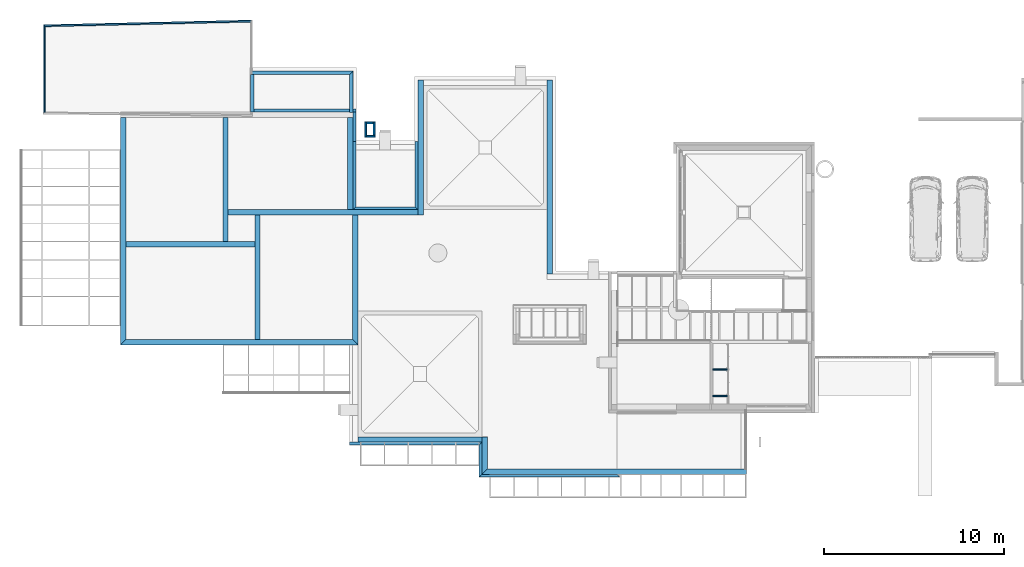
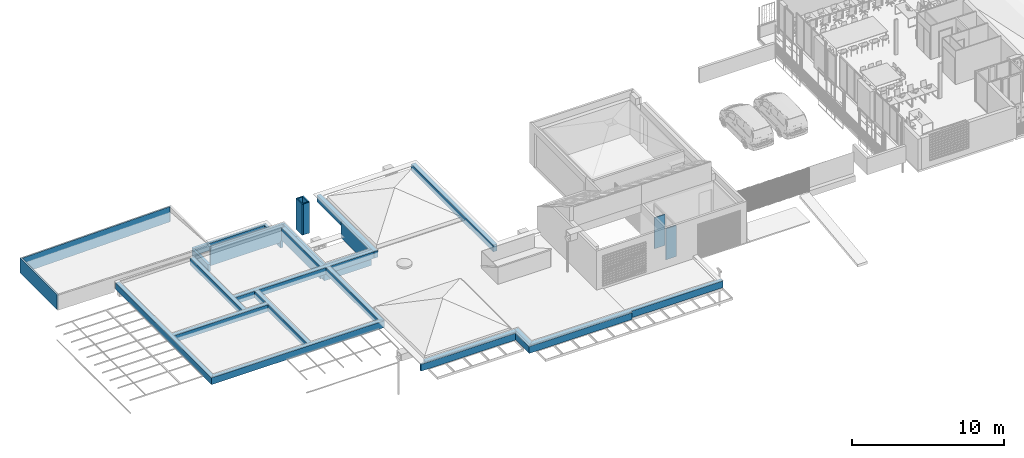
# One storey, part 15 of 51: 32 walls.
"""IFC2X3 building model written with IfcOpenShell, lengths in metres."""

from ifc_helpers import new_model, entity, si_unit, converted_unit, derived_unit, direction, frame, frame_2d, origin, place, context, subcontext, project, spatial, polyline, rectangle, outline, extrude, material, layer, layer_set, layer_usage, type_object, element, save


model = new_model("IFC2X3")

# Units and contexts
model_context = context("Model", 3, precision=1e-05, world=origin(), true_north=direction((6.123031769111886e-17, 1.0)))
body_context = subcontext(model_context, "Body", "Model", "MODEL_VIEW")
ifc_project = project(units=[si_unit("LENGTHUNIT", "METRE"), si_unit("AREAUNIT", "SQUARE_METRE"), si_unit("VOLUMEUNIT", "CUBIC_METRE"), converted_unit("PLANEANGLEUNIT", "DEGREE", entity("IfcRatioMeasure", 0.017453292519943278), si_unit("PLANEANGLEUNIT", "RADIAN"), dimensions=[0, 0, 0, 0, 0, 0, 0]), si_unit("MASSUNIT", "GRAM", prefix="KILO"), derived_unit("MASSDENSITYUNIT", [(si_unit("MASSUNIT", "GRAM", prefix="KILO"), 1), (si_unit("LENGTHUNIT", "METRE"), -3)]), derived_unit("MOMENTOFINERTIAUNIT", [(si_unit("LENGTHUNIT", "METRE"), 4)]), si_unit("TIMEUNIT", "SECOND"), si_unit("FREQUENCYUNIT", "HERTZ"), si_unit("THERMODYNAMICTEMPERATUREUNIT", "DEGREE_CELSIUS"), derived_unit("THERMALTRANSMITTANCEUNIT", [(si_unit("MASSUNIT", "GRAM", prefix="KILO"), 1), (si_unit("THERMODYNAMICTEMPERATUREUNIT", "KELVIN"), -1), (si_unit("TIMEUNIT", "SECOND"), -3)]), derived_unit("THERMALCONDUCTANCEUNIT", [(si_unit("MASSUNIT", "GRAM", prefix="KILO"), 1), (si_unit("LENGTHUNIT", "METRE"), 1), (si_unit("THERMODYNAMICTEMPERATUREUNIT", "KELVIN"), -1), (si_unit("TIMEUNIT", "SECOND"), -3)]), derived_unit("VOLUMETRICFLOWRATEUNIT", [(si_unit("LENGTHUNIT", "METRE"), 3), (si_unit("TIMEUNIT", "SECOND"), -1)]), derived_unit("MASSFLOWRATEUNIT", [(si_unit("MASSUNIT", "GRAM", prefix="KILO"), 1), (si_unit("TIMEUNIT", "SECOND"), -1)]), derived_unit("ROTATIONALFREQUENCYUNIT", [(si_unit("TIMEUNIT", "SECOND"), -1)]), si_unit("ELECTRICCURRENTUNIT", "AMPERE"), si_unit("ELECTRICVOLTAGEUNIT", "VOLT"), si_unit("POWERUNIT", "WATT"), si_unit("FORCEUNIT", "NEWTON", prefix="KILO"), si_unit("ILLUMINANCEUNIT", "LUX"), si_unit("LUMINOUSFLUXUNIT", "LUMEN"), si_unit("LUMINOUSINTENSITYUNIT", "CANDELA"), derived_unit("USERDEFINED", [(si_unit("MASSUNIT", "GRAM", prefix="KILO"), -1), (si_unit("LENGTHUNIT", "METRE"), -2), (si_unit("TIMEUNIT", "SECOND"), 3), (si_unit("LUMINOUSFLUXUNIT", "LUMEN"), 1)]), derived_unit("USERDEFINED", [(si_unit("MASSUNIT", "GRAM", prefix="KILO"), 1), (si_unit("LENGTHUNIT", "METRE"), 3), (si_unit("TIMEUNIT", "SECOND"), -3), (si_unit("ELECTRICCURRENTUNIT", "AMPERE"), -2)]), derived_unit("USERDEFINED", [(si_unit("LENGTHUNIT", "METRE"), 2), (si_unit("TIMEUNIT", "SECOND"), -2)]), derived_unit("SOUNDPOWERUNIT", [(si_unit("MASSUNIT", "GRAM", prefix="KILO"), 1), (si_unit("LENGTHUNIT", "METRE"), 2), (si_unit("TIMEUNIT", "SECOND"), -3)]), derived_unit("SOUNDPRESSUREUNIT", [(si_unit("MASSUNIT", "GRAM", prefix="KILO"), 1), (si_unit("LENGTHUNIT", "METRE"), -1), (si_unit("TIMEUNIT", "SECOND"), -2)]), derived_unit("LINEARVELOCITYUNIT", [(si_unit("LENGTHUNIT", "METRE"), 1), (si_unit("TIMEUNIT", "SECOND"), -1)]), si_unit("PRESSUREUNIT", "PASCAL"), derived_unit("USERDEFINED", [(si_unit("LENGTHUNIT", "METRE"), -2), (si_unit("MASSUNIT", "GRAM", prefix="KILO"), 1), (si_unit("TIMEUNIT", "SECOND"), -2)]), derived_unit("LINEARFORCEUNIT", [(si_unit("MASSUNIT", "GRAM", prefix="KILO"), 1), (si_unit("LENGTHUNIT", "METRE"), 1), (si_unit("TIMEUNIT", "SECOND"), -2), (si_unit("LENGTHUNIT", "METRE"), -1)]), derived_unit("PLANARFORCEUNIT", [(si_unit("MASSUNIT", "GRAM", prefix="KILO"), 1), (si_unit("LENGTHUNIT", "METRE"), 1), (si_unit("TIMEUNIT", "SECOND"), -2), (si_unit("LENGTHUNIT", "METRE"), -2)]), derived_unit("SPECIFICHEATCAPACITYUNIT", [(si_unit("LENGTHUNIT", "METRE"), 2), (si_unit("TIMEUNIT", "SECOND"), -2), (si_unit("THERMODYNAMICTEMPERATUREUNIT", "KELVIN"), -1)]), derived_unit("VAPORPERMEABILITYUNIT", [(si_unit("TIMEUNIT", "SECOND"), 1), (si_unit("LENGTHUNIT", "METRE"), -1)]), derived_unit("DYNAMICVISCOSITYUNIT", [(si_unit("MASSUNIT", "GRAM", prefix="KILO"), 1), (si_unit("LENGTHUNIT", "METRE"), -1), (si_unit("TIMEUNIT", "SECOND"), -1)]), derived_unit("THERMALEXPANSIONCOEFFICIENTUNIT", [(si_unit("THERMODYNAMICTEMPERATUREUNIT", "KELVIN"), -1)])], contexts=[model_context])

# Site, building, storey
site_placement = place(None, origin())
site = spatial("IfcSite", under=ifc_project, at=site_placement, Name="Default", CompositionType="ELEMENT")
building_placement = place(site_placement, origin())
building = spatial("IfcBuilding", under=site, at=building_placement, CompositionType="ELEMENT")
storey_placement = place(building_placement, frame((0.0, 0.0, 3.06)))
storey = spatial("IfcBuildingStorey", under=building, at=storey_placement, Name="ÉTAGE", CompositionType="ELEMENT", Elevation=3.06)

# Walls
ifc_material_1 = material(Name="Appareillage - Pierre taillé")
ifc_layer_1 = layer(ifc_material_1, 0.29999999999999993)
ifc_layer_set_1 = layer_set([ifc_layer_1], Name="Mur de base:Struct. - Pierre 300")
ifc_layer_usage_1 = layer_usage(ifc_layer_set_1, "AXIS2", "NEGATIVE", 0.14999999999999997)
wall_type_1 = type_object("IfcWallType", Name="Mur de base:Struct. - Pierre 300", PredefinedType="STANDARD", material=ifc_layer_set_1)
wall_1_placement = place(storey_placement, frame((124.58075227, 4.317209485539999, -0.260000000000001), z_axis=(0.0, 0.0, 1.0), x_axis=(-1.0, 0.0, 0.0)))
element("IfcWallStandardCase", 1, at=wall_1_placement, inside=storey, type_object=wall_type_1, material=ifc_layer_usage_1, Name="MurExt-004", ObjectType="Mur de base:Struct. - Pierre 300", context=body_context, shape_type="SweptSolid", body=[
    extrude(outline(polyline([(14.40999998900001, -0.15000000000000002), (14.70999998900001, 0.15000000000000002), (0.0, 0.15000000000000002), (0.0, -0.15000000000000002), (7.189999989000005, -0.15000000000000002), (7.4899999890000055, -0.15000000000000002), (14.40999998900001, -0.15000000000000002)])), origin(), (0.0, 0.0, 1.0), 0.5400000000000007),
])
wall_2_placement = place(storey_placement, frame((110.020752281, 4.16720948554, -0.260000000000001), z_axis=(0.0, 0.0, 1.0), x_axis=(0.0, 1.0, 0.0)))
element("IfcWallStandardCase", 2, at=wall_2_placement, inside=storey, type_object=wall_type_1, material=ifc_layer_usage_1, Name="MurExt-005", ObjectType="Mur de base:Struct. - Pierre 300", context=body_context, shape_type="SweptSolid", body=[
    extrude(outline(polyline([(2.0899999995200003, -0.15000000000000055), (2.0899999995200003, 0.15000000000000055), (1.7899999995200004, 0.15000000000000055), (0.0, 0.15000000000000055), (0.30000000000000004, -0.15000000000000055), (2.03999999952, -0.15000000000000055), (2.0899999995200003, -0.15000000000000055)])), origin(), (0.0, 0.0, 1.0), 0.5400000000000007),
])
wall_3_placement = place(storey_placement, frame((109.870752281, 6.107209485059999, -0.260000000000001), z_axis=(0.0, 0.0, 1.0), x_axis=(-1.0, 0.0, 0.0)))
element("IfcWallStandardCase", 3, at=wall_3_placement, inside=storey, type_object=wall_type_1, material=ifc_layer_usage_1, Name="MurExt-006", ObjectType="Mur de base:Struct. - Pierre 300", context=body_context, shape_type="SweptSolid", body=[
    extrude(rectangle(XDim=6.910000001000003, YDim=0.29999999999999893, at=frame_2d((3.4550000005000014, 0.0), x_axis=(-1.0, 0.0))), origin(), (0.0, 0.0, 1.0), 0.5400000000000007),
])
wall_4_placement = place(storey_placement, frame((102.96075228, 11.5272094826, -0.260000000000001), z_axis=(0.0, 0.0, 1.0), x_axis=(-1.0, 0.0, 0.0)))
element("IfcWallStandardCase", 4, at=wall_4_placement, inside=storey, type_object=wall_type_1, material=ifc_layer_usage_1, Name="MurExt-008", ObjectType="Mur de base:Struct. - Pierre 300", context=body_context, shape_type="SweptSolid", body=[
    extrude(outline(polyline([(12.909999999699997, -0.14999999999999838), (13.209999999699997, 0.15000000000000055), (0.0, 0.15000000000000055), (0.3000000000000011, -0.14999999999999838), (5.439999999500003, -0.14999999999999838), (5.739999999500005, -0.14999999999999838), (12.909999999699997, -0.14999999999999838)])), origin(), (0.0, 0.0, 1.0), 0.5400000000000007),
])
wall_5_placement = place(storey_placement, frame((102.81075227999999, 18.5972094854, -0.260000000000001), z_axis=(0.0, 0.0, 1.0), x_axis=(0.0, -1.0, 0.0)))
element("IfcWallStandardCase", 5, at=wall_5_placement, inside=storey, type_object=wall_type_1, material=ifc_layer_usage_1, Name="MurExt-009", ObjectType="Mur de base:Struct. - Pierre 300", context=body_context, shape_type="SweptSolid", body=[
    extrude(outline(polyline([(6.920000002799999, -0.15000000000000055), (7.220000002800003, 0.15000000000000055), (0.0, 0.15000000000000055), (0.0, -0.15000000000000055), (6.920000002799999, -0.15000000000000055)])), origin(), (0.0, 0.0, 1.0), 0.5400000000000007),
])
wall_6_placement = place(storey_placement, frame((89.9007522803, 11.3772094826, -0.260000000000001), z_axis=(0.0, 0.0, 1.0), x_axis=(0.0, 1.0, 0.0)))
element("IfcWallStandardCase", 6, at=wall_6_placement, inside=storey, type_object=wall_type_1, material=ifc_layer_usage_1, Name="MurExt-011", ObjectType="Mur de base:Struct. - Pierre 300", context=body_context, shape_type="SweptSolid", body=[
    extrude(outline(polyline([(12.659999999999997, -0.15000000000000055), (12.659999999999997, 0.15000000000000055), (0.0, 0.15000000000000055), (0.3000000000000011, -0.15000000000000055), (5.44, -0.15000000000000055), (5.740000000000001, -0.15000000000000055), (12.659999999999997, -0.15000000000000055)])), origin(), (0.0, 0.0, 1.0), 0.5400000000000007),
])
wall_7_placement = place(storey_placement, frame((106.45075227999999, 18.5972094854, -0.260000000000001), z_axis=(0.0, 0.0, 1.0), x_axis=(0.0, 1.0, 0.0)))
element("IfcWallStandardCase", 7, at=wall_7_placement, inside=storey, type_object=wall_type_1, material=ifc_layer_usage_1, Name="MurExt-014", ObjectType="Mur de base:Struct. - Pierre 300", context=body_context, shape_type="SweptSolid", body=[
    extrude(rectangle(XDim=7.519999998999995, YDim=0.3000000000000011, at=frame_2d((3.7599999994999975, 0.0), x_axis=(-1.0, 0.0))), origin(), (0.0, 0.0, 1.0), 0.5400000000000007),
])
wall_8_placement = place(storey_placement, frame((113.64075228, 26.117209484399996, -0.260000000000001), z_axis=(0.0, 0.0, 1.0), x_axis=(0.0, -1.0, 0.0)))
element("IfcWallStandardCase", 8, at=wall_8_placement, inside=storey, type_object=wall_type_1, material=ifc_layer_usage_1, Name="MurExt-016", ObjectType="Mur de base:Struct. - Pierre 300", context=body_context, shape_type="SweptSolid", body=[
    extrude(rectangle(XDim=10.810000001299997, YDim=0.3000000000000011, at=frame_2d((5.4050000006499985, 0.0), x_axis=(-1.0, 0.0))), origin(), (0.0, 0.0, 1.0), 0.5400000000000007),
])
wall_9_placement = place(storey_placement, frame((95.74075228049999, 18.7472094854, -0.260000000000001)))
element("IfcWallStandardCase", 9, at=wall_9_placement, inside=storey, type_object=wall_type_1, material=ifc_layer_usage_1, Name="MurExt-015", ObjectType="Mur de base:Struct. - Pierre 300", context=body_context, shape_type="SweptSolid", body=[
    extrude(rectangle(XDim=10.5599999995, YDim=0.3000000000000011, at=frame_2d((5.27999999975, 0.0), x_axis=(-1.0, 0.0))), origin(), (0.0, 0.0, 1.0), 0.5400000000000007),
])
wall_10_placement = place(storey_placement, frame((102.54075227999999, 24.037209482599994, -0.7200000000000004), z_axis=(0.0, 0.0, 1.0), x_axis=(0.0, -1.0, 0.0)))
element("IfcWallStandardCase", 10, at=wall_10_placement, inside=storey, type_object=wall_type_1, material=ifc_layer_usage_1, Name="MurExt-009", ObjectType="Mur de base:Struct. - Pierre 300", context=body_context, shape_type="SweptSolid", body=[
    extrude(rectangle(XDim=5.139999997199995, YDim=0.3000000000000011, at=frame_2d((2.5699999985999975, 0.0), x_axis=(-1.0, 0.0))), origin(), (0.0, 0.0, 1.0), 1.0),
])
wall_11_placement = place(storey_placement, frame((97.37075228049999, 11.677209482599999, -0.260000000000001), z_axis=(0.0, 0.0, 1.0), x_axis=(0.0, 1.0, 0.0)))
element("IfcWallStandardCase", 11, at=wall_11_placement, inside=storey, type_object=wall_type_1, material=ifc_layer_usage_1, Name="MurExt-015", ObjectType="Mur de base:Struct. - Pierre 300", context=body_context, shape_type="SweptSolid", body=[
    extrude(rectangle(XDim=6.920000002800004, YDim=0.3000000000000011, at=frame_2d((3.460000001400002, 0.0), x_axis=(-1.0, 0.0))), origin(), (0.0, 0.0, 1.0), 0.5400000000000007),
])
wall_12_placement = place(storey_placement, frame((95.5907522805, 24.037209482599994, -0.260000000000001), z_axis=(0.0, 0.0, 1.0), x_axis=(0.0, -1.0, 0.0)))
element("IfcWallStandardCase", 12, at=wall_12_placement, inside=storey, type_object=wall_type_1, material=ifc_layer_usage_1, Name="MurExt-015", ObjectType="Mur de base:Struct. - Pierre 300", context=body_context, shape_type="SweptSolid", body=[
    extrude(rectangle(XDim=6.919999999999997, YDim=0.3000000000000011, at=frame_2d((3.4599999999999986, 0.0), x_axis=(-1.0, 0.0))), origin(), (0.0, 0.0, 1.0), 0.5400000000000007),
])
wall_13_placement = place(storey_placement, frame((90.05075228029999, 16.967209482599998, -0.260000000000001)))
element("IfcWallStandardCase", 13, at=wall_13_placement, inside=storey, type_object=wall_type_1, material=ifc_layer_usage_1, Name="MurExt-015", ObjectType="Mur de base:Struct. - Pierre 300", context=body_context, shape_type="SweptSolid", body=[
    extrude(rectangle(XDim=7.170000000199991, YDim=0.3000000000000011, at=frame_2d((3.5850000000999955, 0.0), x_axis=(-1.0, 0.0))), origin(), (0.0, 0.0, 1.0), 0.5400000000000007),
])
ifc_material_2 = material(Name="Enduit - Jaune nature")
ifc_layer_2 = layer(ifc_material_2, 0.02)
ifc_material_3 = material(Name="Isolation - Fibre de verre")
ifc_layer_3 = layer(ifc_material_3, 0.14)
ifc_layer_set_2 = layer_set([ifc_layer_2, ifc_layer_3], Name="Mur de base:ABA ITE 140 + enduit 160")
ifc_layer_usage_2 = layer_usage(ifc_layer_set_2, "AXIS2", "NEGATIVE", 0.08)
wall_type_2 = type_object("IfcWallType", Name="Mur de base:ABA ITE 140 + enduit 160", PredefinedType="STANDARD", material=ifc_layer_set_2)
wall_14_placement = place(storey_placement, frame((102.77075228, 22.68720948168, -1.0), z_axis=(0.0, 0.0, 1.0), x_axis=(0.0, -1.0, 0.0)))
element("IfcWallStandardCase", 14, at=wall_14_placement, inside=storey, type_object=wall_type_2, material=ifc_layer_usage_2, Name="MurExt-008", ObjectType="Mur de base:ABA ITE 140 + enduit 160", context=body_context, shape_type="SweptSolid", body=[
    extrude(outline(polyline([(3.7899999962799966, -0.07999999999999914), (3.6299999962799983, 0.07999999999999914), (0.0, 0.07999999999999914), (0.0, -0.07999999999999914), (3.7899999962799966, -0.07999999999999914)])), origin(), (0.0, 0.0, 1.0), 1.2799999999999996),
])
wall_15_placement = place(storey_placement, frame((109.870752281, 5.877209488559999, -0.260000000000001), z_axis=(0.0, 0.0, 1.0), x_axis=(-1.0, 0.0, 0.0)))
element("IfcWallStandardCase", 15, at=wall_15_placement, inside=storey, type_object=wall_type_2, material=ifc_layer_usage_2, Name="MurExt-016", ObjectType="Mur de base:ABA ITE 140 + enduit 160", context=body_context, shape_type="SweptSolid", body=[
    extrude(outline(polyline([(7.370000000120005, -0.08000000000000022), (7.370000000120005, 0.08000000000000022), (0.15999999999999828, 0.08000000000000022), (0.0, -0.08000000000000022), (7.370000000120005, -0.08000000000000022)])), origin(), (0.0, 0.0, 1.0), 0.5400000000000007),
])
wall_16_placement = place(storey_placement, frame((109.790752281, 4.0072094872, -0.260000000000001), z_axis=(0.0, 0.0, 1.0), x_axis=(0.0, 1.0, 0.0)))
element("IfcWallStandardCase", 16, at=wall_16_placement, inside=storey, type_object=wall_type_2, material=ifc_layer_usage_2, Name="MurExt-015", ObjectType="Mur de base:ABA ITE 140 + enduit 160", context=body_context, shape_type="SweptSolid", body=[
    extrude(outline(polyline([(1.95000000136, -0.07999999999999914), (1.7900000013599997, 0.07999999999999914), (0.0, 0.07999999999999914), (0.16000000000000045, -0.07999999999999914), (1.95000000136, -0.07999999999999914)])), origin(), (0.0, 0.0, 1.0), 0.5400000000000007),
])
wall_17_placement = place(storey_placement, frame((117.550752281, 4.0872094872, -0.260000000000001), z_axis=(0.0, 0.0, 1.0), x_axis=(-1.0, 0.0, 0.0)))
element("IfcWallStandardCase", 17, at=wall_17_placement, inside=storey, type_object=wall_type_2, material=ifc_layer_usage_2, Name="MurExt-014", ObjectType="Mur de base:ABA ITE 140 + enduit 160", context=body_context, shape_type="SweptSolid", body=[
    extrude(outline(polyline([(7.680000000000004, -0.07999999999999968), (7.8400000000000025, 0.08000000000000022), (0.620000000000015, 0.08000000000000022), (0.0, 0.08000000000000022), (0.15999999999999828, -0.07999999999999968), (0.46000000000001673, -0.07999999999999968), (7.680000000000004, -0.07999999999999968)])), origin(), (0.0, 0.0, 1.0), 0.5400000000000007),
])
wall_18_placement = place(storey_placement, frame((97.1707522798, 24.4172094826, -1.1400000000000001)))
element("IfcWallStandardCase", 18, at=wall_18_placement, inside=storey, type_object=wall_type_2, material=ifc_layer_usage_2, Name="MurExt-008", ObjectType="Mur de base:ABA ITE 140 + enduit 160", context=body_context, shape_type="SweptSolid", body=[
    extrude(rectangle(XDim=5.680000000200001, YDim=0.15999999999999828, at=frame_2d((2.8400000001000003, 0.0), x_axis=(-1.0, 0.0))), origin(), (0.0, 0.0, 1.0), 1.42),
])
wall_19_placement = place(storey_placement, frame((102.77075228, 24.337209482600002, -0.9899999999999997), z_axis=(0.0, 0.0, 1.0), x_axis=(0.0, -1.0, 0.0)))
element("IfcWallStandardCase", 19, at=wall_19_placement, inside=storey, type_object=wall_type_2, material=ifc_layer_usage_2, Name="MurExt-008", ObjectType="Mur de base:ABA ITE 140 + enduit 160", context=body_context, shape_type="SweptSolid", body=[
    extrude(rectangle(XDim=1.6500000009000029, YDim=0.15999999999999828, at=frame_2d((0.8250000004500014, 0.0), x_axis=(-1.0, 0.0))), origin(), (0.0, 0.0, 1.0), 1.2699999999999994),
])
wall_20_placement = place(storey_placement, frame((106.22075228, 18.8972094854, -1.0), z_axis=(0.0, 0.0, 1.0), x_axis=(0.0, 1.0, 0.0)))
element("IfcWallStandardCase", 20, at=wall_20_placement, inside=storey, type_object=wall_type_2, material=ifc_layer_usage_2, Name="MurExt-006", ObjectType="Mur de base:ABA ITE 140 + enduit 160", context=body_context, shape_type="SweptSolid", body=[
    extrude(outline(polyline([(3.789999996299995, -0.07999999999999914), (3.789999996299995, 0.07999999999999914), (0.15999999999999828, 0.07999999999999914), (0.0, -0.07999999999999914), (3.789999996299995, -0.07999999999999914)])), origin(), (0.0, 0.0, 1.0), 1.2799999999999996),
])
wall_21_placement = place(storey_placement, frame((102.69075228, 18.977209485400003, -1.0)))
element("IfcWallStandardCase", 21, at=wall_21_placement, inside=storey, type_object=wall_type_2, material=ifc_layer_usage_2, Name="MurExt-006", ObjectType="Mur de base:ABA ITE 140 + enduit 160", context=body_context, shape_type="SweptSolid", body=[
    extrude(outline(polyline([(3.6099999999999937, -0.0800000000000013), (3.4499999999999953, 0.07999999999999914), (0.15999999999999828, 0.07999999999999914), (0.0, -0.0800000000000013), (3.6099999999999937, -0.0800000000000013)])), origin(), (0.0, 0.0, 1.0), 1.2799999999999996),
])
ifc_layer_4 = layer(ifc_material_1, 0.1)
ifc_layer_set_3 = layer_set([ifc_layer_4], Name="Mur de base:Struct. - Pierre 100")
ifc_layer_usage_3 = layer_usage(ifc_layer_set_3, "AXIS2", "NEGATIVE", 0.05)
wall_type_3 = type_object("IfcWallType", Name="Mur de base:Struct. - Pierre 100", PredefinedType="STANDARD", material=ifc_layer_set_3)
wall_22_placement = place(storey_placement, frame((103.39075228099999, 22.9372094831, 0.0), z_axis=(0.0, 0.0, 1.0), x_axis=(0.0, 1.0, 0.0)))
element("IfcWallStandardCase", 22, at=wall_22_placement, inside=storey, type_object=wall_type_3, material=ifc_layer_usage_3, Name="MurExt-021", ObjectType="Mur de base:Struct. - Pierre 100", context=body_context, shape_type="SweptSolid", body=[
    extrude(rectangle(XDim=0.8400000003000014, YDim=0.10000000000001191, at=frame_2d((0.4200000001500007, 0.0), x_axis=(-1.0, 0.0))), origin(), (0.0, 0.0, 1.0), 2.4900000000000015),
])
wall_23_placement = place(storey_placement, frame((103.91075228, 22.9872094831, 0.0), z_axis=(0.0, 0.0, 1.0), x_axis=(-1.0, 0.0, 0.0)))
element("IfcWallStandardCase", 23, at=wall_23_placement, inside=storey, type_object=wall_type_3, material=ifc_layer_usage_3, Name="MurExt-018", ObjectType="Mur de base:Struct. - Pierre 100", context=body_context, shape_type="SweptSolid", body=[
    extrude(rectangle(XDim=0.469999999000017, YDim=0.10000000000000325, at=frame_2d((0.2349999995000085, 0.0), x_axis=(-1.0, 0.0))), origin(), (0.0, 0.0, 1.0), 2.4900000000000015),
])
wall_24_placement = place(storey_placement, frame((103.86075228, 23.7772094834, 0.0), z_axis=(0.0, 0.0, 1.0), x_axis=(0.0, -1.0, 0.0)))
element("IfcWallStandardCase", 24, at=wall_24_placement, inside=storey, type_object=wall_type_3, material=ifc_layer_usage_3, Name="MurExt-019", ObjectType="Mur de base:Struct. - Pierre 100", context=body_context, shape_type="SweptSolid", body=[
    extrude(rectangle(XDim=0.7400000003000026, YDim=0.10000000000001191, at=frame_2d((0.3700000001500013, 0.0), x_axis=(-1.0, 0.0))), origin(), (0.0, 0.0, 1.0), 2.4900000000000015),
])
wall_25_placement = place(storey_placement, frame((103.44075228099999, 23.727209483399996, 0.0)))
element("IfcWallStandardCase", 25, at=wall_25_placement, inside=storey, type_object=wall_type_3, material=ifc_layer_usage_3, Name="MurExt-020", ObjectType="Mur de base:Struct. - Pierre 100", context=body_context, shape_type="SweptSolid", body=[
    extrude(rectangle(XDim=0.3699999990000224, YDim=0.10000000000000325, at=frame_2d((0.1849999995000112, 0.0), x_axis=(-1.0, 0.0))), origin(), (0.0, 0.0, 1.0), 2.4900000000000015),
])
ifc_material_4 = material(Name="Plâtre - Plaques de plâtre")
ifc_layer_5 = layer(ifc_material_4, 0.013)
ifc_layer_6 = layer(ifc_material_3, 0.044)
ifc_layer_7 = layer(ifc_material_4, 0.013)
ifc_layer_set_4 = layer_set([ifc_layer_5, ifc_layer_6, ifc_layer_7], Name="Mur de base:ABA cloison 7cm 70")
ifc_layer_usage_4 = layer_usage(ifc_layer_set_4, "AXIS2", "NEGATIVE", 0.034999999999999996)
wall_type_4 = type_object("IfcWallType", Name="Mur de base:ABA cloison 7cm 70", PredefinedType="STANDARD", material=ifc_layer_set_4)
wall_26_placement = place(storey_placement, frame((122.720752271, 10.002209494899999, 0.0)))
element("IfcWallStandardCase", 26, at=wall_26_placement, inside=storey, type_object=wall_type_4, material=ifc_layer_usage_4, Name="MurExt-025", ObjectType="Mur de base:ABA cloison 7cm 70", context=body_context, shape_type="SweptSolid", body=[
    extrude(rectangle(XDim=0.8000000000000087, YDim=0.07000000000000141, at=frame_2d((0.40000000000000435, 0.0), x_axis=(-1.0, 0.0))), origin(), (0.0, 0.0, 1.0), 2.499999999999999),
])
wall_27_placement = place(storey_placement, frame((122.720752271, 8.53220949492, 0.0)))
element("IfcWallStandardCase", 27, at=wall_27_placement, inside=storey, type_object=wall_type_4, material=ifc_layer_usage_4, Name="MurExt-025", ObjectType="Mur de base:ABA cloison 7cm 70", context=body_context, shape_type="SweptSolid", body=[
    extrude(rectangle(XDim=0.8000000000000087, YDim=0.06999999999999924, at=frame_2d((0.40000000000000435, 0.0), x_axis=(-1.0, 0.0))), origin(), (0.0, 0.0, 1.0), 2.499999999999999),
])
ifc_material_5 = material(Name="Métal - Fer")
ifc_layer_8 = layer(ifc_material_5, 0.1)
ifc_layer_set_5 = layer_set([ifc_layer_8], Name="Mur de base:Métal - Fer 100")
ifc_layer_usage_5 = layer_usage(ifc_layer_set_5, "AXIS2", "NEGATIVE", 0.05)
wall_type_5 = type_object("IfcWallType", Name="Mur de base:Métal - Fer 100", PredefinedType="STANDARD", material=ifc_layer_set_5)
wall_28_placement = place(storey_placement, frame((85.51094004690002, 24.318391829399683, -0.5600000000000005), z_axis=(0.0, 0.0, 1.0), x_axis=(0.0, 1.0, 0.0)))
element("IfcWallStandardCase", 28, at=wall_28_placement, inside=storey, type_object=wall_type_5, material=ifc_layer_usage_5, Name="MurExt-015", ObjectType="Mur de base:Métal - Fer 100", context=body_context, shape_type="SweptSolid", body=[
    extrude(outline(polyline([(4.76609319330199, -0.04999999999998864), (4.863865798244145, 0.050000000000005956), (0.0009828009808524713, 0.050000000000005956), (0.0, -0.04999999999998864), (4.76609319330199, -0.04999999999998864)])), origin(), (0.0, 0.0, 1.0), 1.22),
])
wall_29_placement = place(storey_placement, frame((85.46206614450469, 29.132270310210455, -0.5600000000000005), z_axis=(0.0, 0.0, 1.0), x_axis=(0.9997463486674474, 0.02252195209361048, 0.0)))
element("IfcWallStandardCase", 29, at=wall_29_placement, inside=storey, type_object=wall_type_5, material=ifc_layer_usage_5, Name="MurExt-014", ObjectType="Mur de base:Métal - Fer 100", context=body_context, shape_type="SweptSolid", body=[
    extrude(outline(polyline([(11.520482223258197, -0.04999999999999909), (11.622760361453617, 0.05000000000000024), (0.0, 0.049999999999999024), (0.09777260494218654, -0.049999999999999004), (11.520482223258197, -0.04999999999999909)])), origin(), (0.0, 0.0, 1.0), 1.22),
])
ifc_layer_9 = layer(ifc_material_1, 0.2)
ifc_layer_set_6 = layer_set([ifc_layer_9], Name="Mur de base:Struct. - Pierre 200")
ifc_layer_usage_6 = layer_usage(ifc_layer_set_6, "AXIS2", "NEGATIVE", 0.1)
wall_type_6 = type_object("IfcWallType", Name="Mur de base:Struct. - Pierre 200", PredefinedType="STANDARD", material=ifc_layer_set_6)
wall_30_placement = place(storey_placement, frame((102.59075228, 26.6172094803, -1.5600000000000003), z_axis=(0.0, 0.0, 1.0), x_axis=(0.0, -1.0, 0.0)))
element("IfcWallStandardCase", 30, at=wall_30_placement, inside=storey, type_object=wall_type_6, material=ifc_layer_usage_6, Name="MurExt-016", ObjectType="Mur de base:Struct. - Pierre 200", context=body_context, shape_type="SweptSolid", body=[
    extrude(outline(polyline([(2.2999999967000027, -0.10000000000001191), (2.2999999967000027, 0.0999999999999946), (0.0, 0.0999999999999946), (0.20000000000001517, -0.10000000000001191), (2.2999999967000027, -0.10000000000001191)])), origin(), (0.0, 0.0, 1.0), 0.5699999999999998),
])
wall_31_placement = place(storey_placement, frame((97.05575227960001, 26.517209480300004, -1.5600000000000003)))
element("IfcWallStandardCase", 31, at=wall_31_placement, inside=storey, type_object=wall_type_6, material=ifc_layer_usage_6, Name="MurExt-017", ObjectType="Mur de base:Struct. - Pierre 200", context=body_context, shape_type="SweptSolid", body=[
    extrude(outline(polyline([(5.435000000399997, -0.10000000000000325), (5.6350000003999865, 0.09999999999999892), (0.1350000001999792, 0.09999999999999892), (0.0, 0.09999999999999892), (0.0, -0.10000000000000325), (0.11500000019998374, -0.10000000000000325), (5.435000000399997, -0.10000000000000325)])), origin(), (0.0, 0.0, 1.0), 0.5699999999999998),
])
wall_32_placement = place(storey_placement, frame((97.07075227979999, 24.337209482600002, -1.5600000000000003), z_axis=(0.0, 0.0, 1.0), x_axis=(0.0, 1.0, 0.0)))
element("IfcWallStandardCase", 32, at=wall_32_placement, inside=storey, type_object=wall_type_6, material=ifc_layer_usage_6, Name="MurExt-018", ObjectType="Mur de base:Struct. - Pierre 200", context=body_context, shape_type="SweptSolid", body=[
    extrude(rectangle(XDim=2.079999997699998, YDim=0.1999999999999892, at=frame_2d((1.039999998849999, 0.0), x_axis=(-1.0, 0.0))), origin(), (0.0, 0.0, 1.0), 0.5699999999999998),
])

save(model, "model.ifc")
